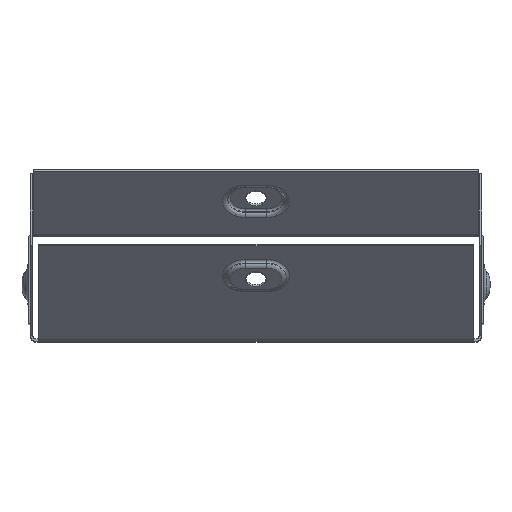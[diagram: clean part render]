
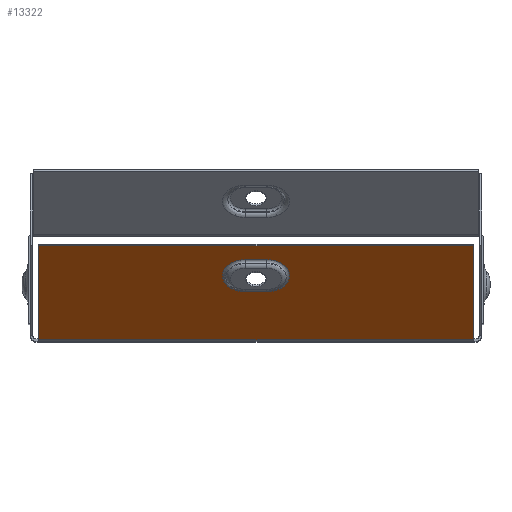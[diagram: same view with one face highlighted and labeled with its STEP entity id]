
A CAD part, top view. The second image highlights one B-rep face of the part: STEP entity #13322.
In plain terms, the highlighted planar face has unit normal (0, -0.707, 0.707).
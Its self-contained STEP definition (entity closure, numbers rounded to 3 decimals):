
#20 = EDGE_CURVE ( 'NONE', #10060, #7627, #12484, .T. ) ;
#50 = CARTESIAN_POINT ( 'NONE',  ( -3.5, -19.394, 93.756 ) ) ;
#387 = AXIS2_PLACEMENT_3D ( 'NONE', #7726, #9817, #4555 ) ;
#463 = CARTESIAN_POINT ( 'NONE',  ( 3.5, -19.394, 93.756 ) ) ;
#606 = VECTOR ( 'NONE', #4598, 1000. ) ;
#645 = VECTOR ( 'NONE', #5940, 1000. ) ;
#994 = LINE ( 'NONE', #13081, #9147 ) ;
#1241 = ORIENTED_EDGE ( 'NONE', *, *, #1295, .T. ) ;
#1295 = EDGE_CURVE ( 'NONE', #10651, #11087, #12290, .T. ) ;
#1430 = DIRECTION ( 'NONE',  ( -1., 0., 0. ) ) ;
#1549 = CARTESIAN_POINT ( 'NONE',  ( 3.5, -8.648, 104.502 ) ) ;
#1580 = CARTESIAN_POINT ( 'NONE',  ( -72.299, -4.122, 109.028 ) ) ;
#2113 = EDGE_CURVE ( 'NONE', #6450, #8911, #9706, .T. ) ;
#2610 = CARTESIAN_POINT ( 'NONE',  ( 72.299, -35.273, 77.877 ) ) ;
#2761 = VECTOR ( 'NONE', #13311, 1000. ) ;
#2970 = EDGE_LOOP ( 'NONE', ( #1241, #4479, #5622, #6214 ) ) ;
#4479 = ORIENTED_EDGE ( 'NONE', *, *, #8034, .T. ) ;
#4555 = DIRECTION ( 'NONE',  ( 0., 0.707, 0.707 ) ) ;
#4598 = DIRECTION ( 'NONE',  ( 1., 0., 0. ) ) ;
#4682 = VECTOR ( 'NONE', #5221, 1000. ) ;
#4937 = DIRECTION ( 'NONE',  ( -1., 0., 0. ) ) ;
#5212 = CARTESIAN_POINT ( 'NONE',  ( 3.5, -19.394, 93.756 ) ) ;
#5221 = DIRECTION ( 'NONE',  ( 0., 0.707, 0.707 ) ) ;
#5622 = ORIENTED_EDGE ( 'NONE', *, *, #2113, .T. ) ;
#5783 = EDGE_CURVE ( 'NONE', #7627, #8221, #5876, .T. ) ;
#5876 = LINE ( 'NONE', #10449, #2761 ) ;
#5940 = DIRECTION ( 'NONE',  ( -1., 0., 0. ) ) ;
#6123 = ORIENTED_EDGE ( 'NONE', *, *, #20, .T. ) ;
#6214 = ORIENTED_EDGE ( 'NONE', *, *, #6646, .T. ) ;
#6450 = VERTEX_POINT ( 'NONE', #5212 ) ;
#6458 = ORIENTED_EDGE ( 'NONE', *, *, #11905, .F. ) ;
#6634 = DIRECTION ( 'NONE',  ( 0., 0.707, 0.707 ) ) ;
#6646 = EDGE_CURVE ( 'NONE', #8911, #10651, #10701, .T. ) ;
#6730 = DIRECTION ( 'NONE',  ( 0., 0.707, -0.707 ) ) ;
#7044 = PLANE ( 'NONE',  #7796 ) ;
#7072 = CARTESIAN_POINT ( 'NONE',  ( -3.5, -8.648, 104.502 ) ) ;
#7378 = FACE_OUTER_BOUND ( 'NONE', #12696, .T. ) ;
#7588 = VERTEX_POINT ( 'NONE', #2610 ) ;
#7591 = VECTOR ( 'NONE', #1430, 1000. ) ;
#7627 = VERTEX_POINT ( 'NONE', #1580 ) ;
#7726 = CARTESIAN_POINT ( 'NONE',  ( -3.5, -14.021, 99.129 ) ) ;
#7734 = CARTESIAN_POINT ( 'NONE',  ( -72.299, -35.273, 77.877 ) ) ;
#7796 = AXIS2_PLACEMENT_3D ( 'NONE', #8182, #12224, #12356 ) ;
#8034 = EDGE_CURVE ( 'NONE', #11087, #6450, #13317, .T. ) ;
#8182 = CARTESIAN_POINT ( 'NONE',  ( 73.2, -35.8, 77.35 ) ) ;
#8221 = VERTEX_POINT ( 'NONE', #7734 ) ;
#8311 = CARTESIAN_POINT ( 'NONE',  ( 72.299, -36.015, 77.135 ) ) ;
#8911 = VERTEX_POINT ( 'NONE', #50 ) ;
#9147 = VECTOR ( 'NONE', #4937, 1000. ) ;
#9551 = EDGE_CURVE ( 'NONE', #7588, #10060, #11837, .T. ) ;
#9706 = LINE ( 'NONE', #463, #7591 ) ;
#9817 = DIRECTION ( 'NONE',  ( 0., 0.707, -0.707 ) ) ;
#10060 = VERTEX_POINT ( 'NONE', #11208 ) ;
#10260 = AXIS2_PLACEMENT_3D ( 'NONE', #12810, #6730, #6634 ) ;
#10449 = CARTESIAN_POINT ( 'NONE',  ( -72.299, -35.8, 77.35 ) ) ;
#10641 = CARTESIAN_POINT ( 'NONE',  ( 3.5, -8.648, 104.502 ) ) ;
#10651 = VERTEX_POINT ( 'NONE', #7072 ) ;
#10701 = CIRCLE ( 'NONE', #387, 7.598 ) ;
#11087 = VERTEX_POINT ( 'NONE', #10641 ) ;
#11208 = CARTESIAN_POINT ( 'NONE',  ( 72.299, -4.122, 109.028 ) ) ;
#11837 = LINE ( 'NONE', #8311, #4682 ) ;
#11905 = EDGE_CURVE ( 'NONE', #7588, #8221, #994, .T. ) ;
#12224 = DIRECTION ( 'NONE',  ( 0., 0.707, -0.707 ) ) ;
#12266 = ORIENTED_EDGE ( 'NONE', *, *, #5783, .T. ) ;
#12290 = LINE ( 'NONE', #1549, #606 ) ;
#12356 = DIRECTION ( 'NONE',  ( 0., 0.707, 0.707 ) ) ;
#12403 = ORIENTED_EDGE ( 'NONE', *, *, #9551, .T. ) ;
#12484 = LINE ( 'NONE', #12942, #645 ) ;
#12672 = FACE_BOUND ( 'NONE', #2970, .T. ) ;
#12696 = EDGE_LOOP ( 'NONE', ( #12266, #6458, #12403, #6123 ) ) ;
#12810 = CARTESIAN_POINT ( 'NONE',  ( 3.5, -14.021, 99.129 ) ) ;
#12942 = CARTESIAN_POINT ( 'NONE',  ( 73.2, -4.122, 109.028 ) ) ;
#13081 = CARTESIAN_POINT ( 'NONE',  ( 73.2, -35.273, 77.877 ) ) ;
#13311 = DIRECTION ( 'NONE',  ( 0., -0.707, -0.707 ) ) ;
#13317 = CIRCLE ( 'NONE', #10260, 7.598 ) ;
#13322 = ADVANCED_FACE ( 'NONE', ( #12672, #7378 ), #7044, .F. ) ;
